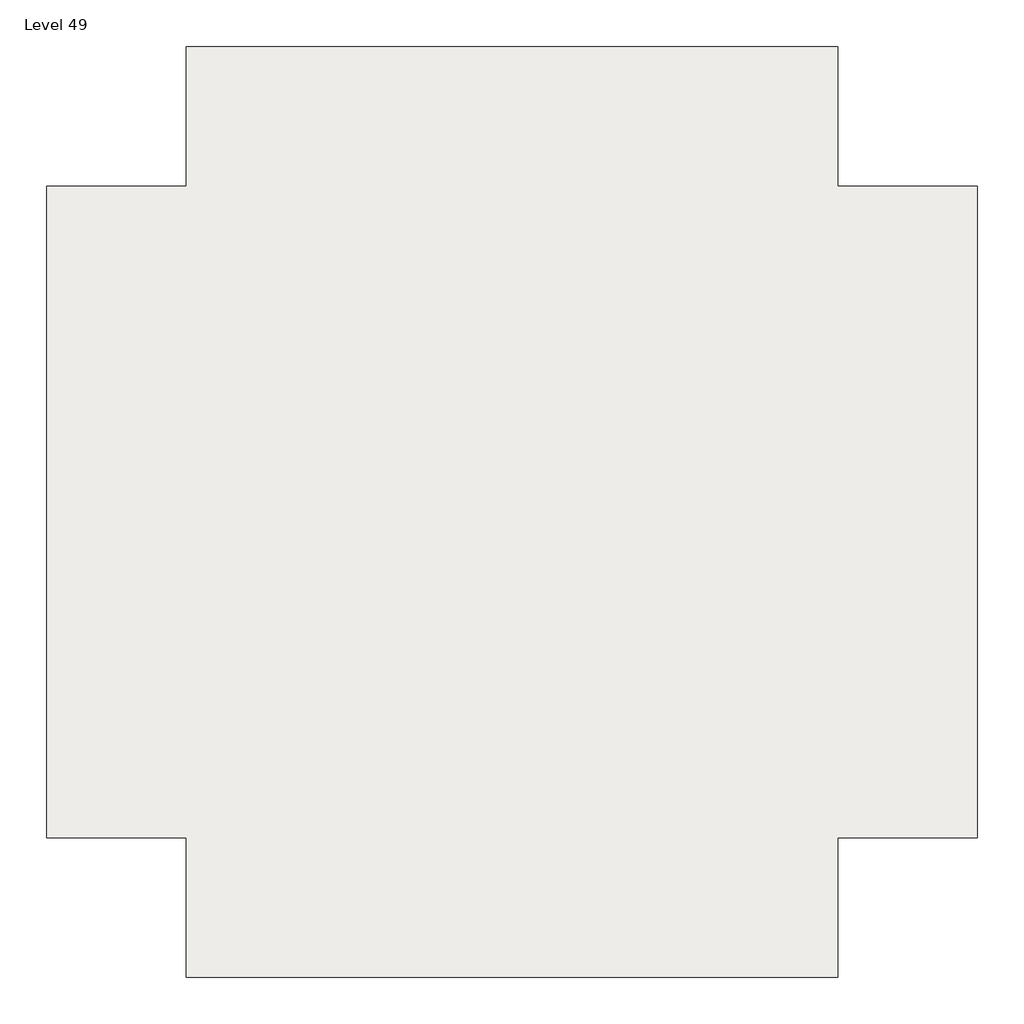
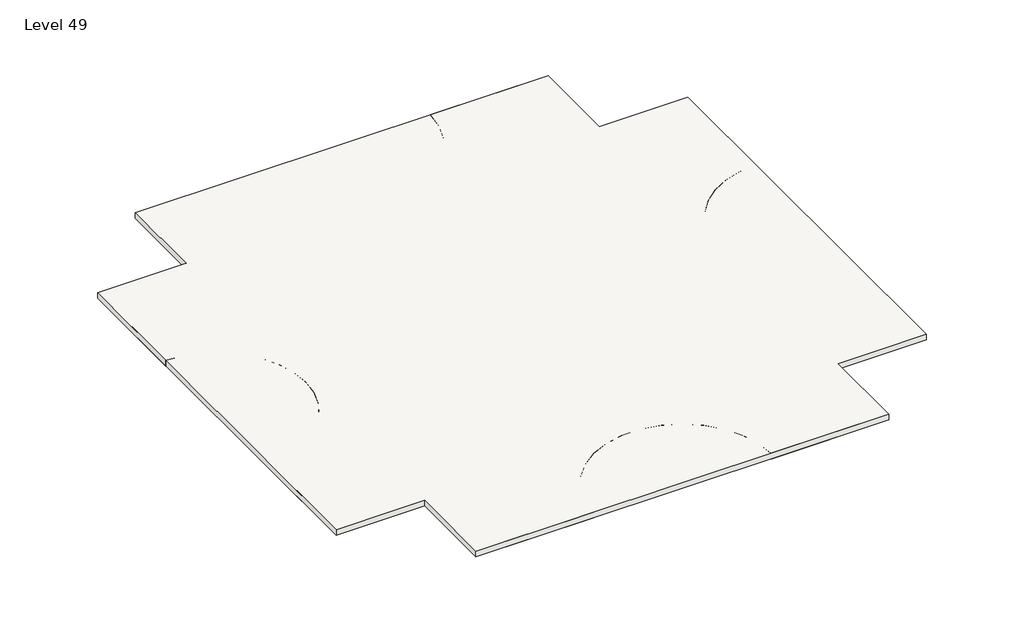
# One storey: 4 slabs.
"""IFC4 building model written with IfcOpenShell, lengths in millimetres."""

from ifc_helpers import new_model, si_unit, point, frame, frame_2d, origin, place, context, project, spatial, polyline, circle_curve, trimmed, segment, composite_curve, outline, extrude, element, save

model = new_model("IFC4")

# Units and contexts
model_context = context("Model", 3, world=origin())
ifc_project = project(units=[si_unit("LENGTHUNIT", "METRE", prefix="MILLI")], contexts=[model_context])

# Site, building, storey
site = spatial("IfcSite", under=ifc_project)
building = spatial("IfcBuilding", under=site)
storey = spatial("IfcBuildingStorey", under=building, Name="Level 49", Elevation=146304.0)

# Slabs
placement = place(None, origin())
element("IfcSlab", 1, ObjectType="Generic - 12\"", at=placement, inside=storey, context=model_context, shape_type="SweptSolid", body=[
    extrude(outline(polyline([(-7150.3629456, 4479.6634547), (-7150.3629456, 9051.6634547), (14185.6370544, 9051.6634547), (14185.6370544, 4479.6634547), (18757.6370544, 4479.6634547), (18757.6370544, -16856.3365453), (14185.6370544, -16856.3365453), (14185.6370544, -21428.3365453), (-7150.3629456, -21428.3365453), (-7150.3629456, -16856.3365453), (-11722.3629456, -16856.3365453), (-11722.3629456, 4479.6634547), (-7150.3629456, 4479.6634547)])), frame((0.0, 0.0, 145999.2), z_axis=(0.0, 0.0, 1.0), x_axis=(1.0, 0.0, 0.0)), (0.0, 0.0, 1.0), 304.8),
])
element("IfcSlab", 2, ObjectType="Generic - 12\"", at=placement, inside=storey, context=model_context, shape_type="SweptSolid", body=[
    extrude(outline(polyline([(-7150.3629456, 4479.6634547), (-7150.3629456, 9051.6634547), (14185.6370544, 9051.6634547), (14185.6370544, 4479.6634547), (18757.6370544, 4479.6634547), (18757.6370544, -16856.3365453), (14185.6370544, -16856.3365453), (14185.6370544, -21428.3365453), (-7150.3629456, -21428.3365453), (-7150.3629456, -16856.3365453), (-11722.3629456, -16856.3365453), (-11722.3629456, 4479.6634547), (-7150.3629456, 4479.6634547)])), frame((0.0, 0.0, 145999.2), z_axis=(0.0, 0.0, 1.0), x_axis=(1.0, 0.0, 0.0)), (0.0, 0.0, 1.0), 304.8),
])
element("IfcSlab", 3, ObjectType="Generic - 12\"", at=placement, inside=storey, context=model_context, shape_type="SweptSolid", body=[
    extrude(outline(polyline([(-7150.3629456, 4479.6634547), (-7150.3629456, 9051.6634547), (14185.6370544, 9051.6634547), (14185.6370544, 4479.6634547), (18757.6370544, 4479.6634547), (18757.6370544, -16856.3365453), (14185.6370544, -16856.3365453), (14185.6370544, -21428.3365453), (-7150.3629456, -21428.3365453), (-7150.3629456, -16856.3365453), (-11722.3629456, -16856.3365453), (-11722.3629456, 4479.6634547), (-7150.3629456, 4479.6634547)])), frame((0.0, 0.0, 145999.2), z_axis=(0.0, 0.0, 1.0), x_axis=(1.0, 0.0, 0.0)), (0.0, 0.0, 1.0), 304.8),
])
element("IfcSlab", 4, ObjectType="Generic - 12\"", at=placement, inside=storey, context=model_context, shape_type="SweptSolid", body=[
    extrude(outline(composite_curve([segment(polyline([(-7150.3629456, 4479.6634547), (-7150.3629456, 9051.6634547), (-1054.3629456, 9051.6634547)]), True, "CONTINUOUS"), segment(trimmed(circle_curve(frame_2d((3517.6370544, 9051.6634547)), 4572.0), [point((-1054.3629456, 9051.6634547))], [point((8089.6370544, 9051.6634547))], True, "CARTESIAN"), True, "CONTINUOUS"), segment(polyline([(8089.6370544, 9051.6634547), (14185.6370544, 9051.6634547), (14185.6370544, 4479.6634547), (18757.6370544, 4479.6634547), (18757.6370544, -1616.3365453)]), True, "CONTINUOUS"), segment(trimmed(circle_curve(frame_2d((18757.6370544, -6188.3365453)), 4572.0), [point((18757.6370544, -1616.3365453))], [point((18757.6370544, -10760.3365453))], True, "CARTESIAN"), True, "CONTINUOUS"), segment(polyline([(18757.6370544, -10760.3365453), (18757.6370544, -16856.3365453), (14185.6370544, -16856.3365453), (14185.6370544, -21428.3365453), (8089.6370544, -21428.3365453)]), True, "CONTINUOUS"), segment(trimmed(circle_curve(frame_2d((3517.6370544, -21428.3365453)), 4572.0), [point((8089.6370544, -21428.3365453))], [point((-1054.3629456, -21428.3365453))], True, "CARTESIAN"), True, "CONTINUOUS"), segment(polyline([(-1054.3629456, -21428.3365453), (-7150.3629456, -21428.3365453), (-7150.3629456, -16856.3365453), (-11722.3629456, -16856.3365453), (-11722.3629456, -10760.3365453)]), True, "CONTINUOUS"), segment(trimmed(circle_curve(frame_2d((-11722.3629456, -6188.3365453)), 4572.0), [point((-11722.3629456, -10760.3365453))], [point((-11722.3629456, -1616.3365453))], True, "CARTESIAN"), True, "CONTINUOUS"), segment(polyline([(-11722.3629456, -1616.3365453), (-11722.3629456, 4479.6634547), (-7150.3629456, 4479.6634547)]), True, "CONTINUOUS")], self_intersect=False)), frame((0.0, 0.0, 145999.2), z_axis=(0.0, 0.0, 1.0), x_axis=(1.0, 0.0, 0.0)), (0.0, 0.0, 1.0), 304.8),
])

save(model, "model.ifc")
